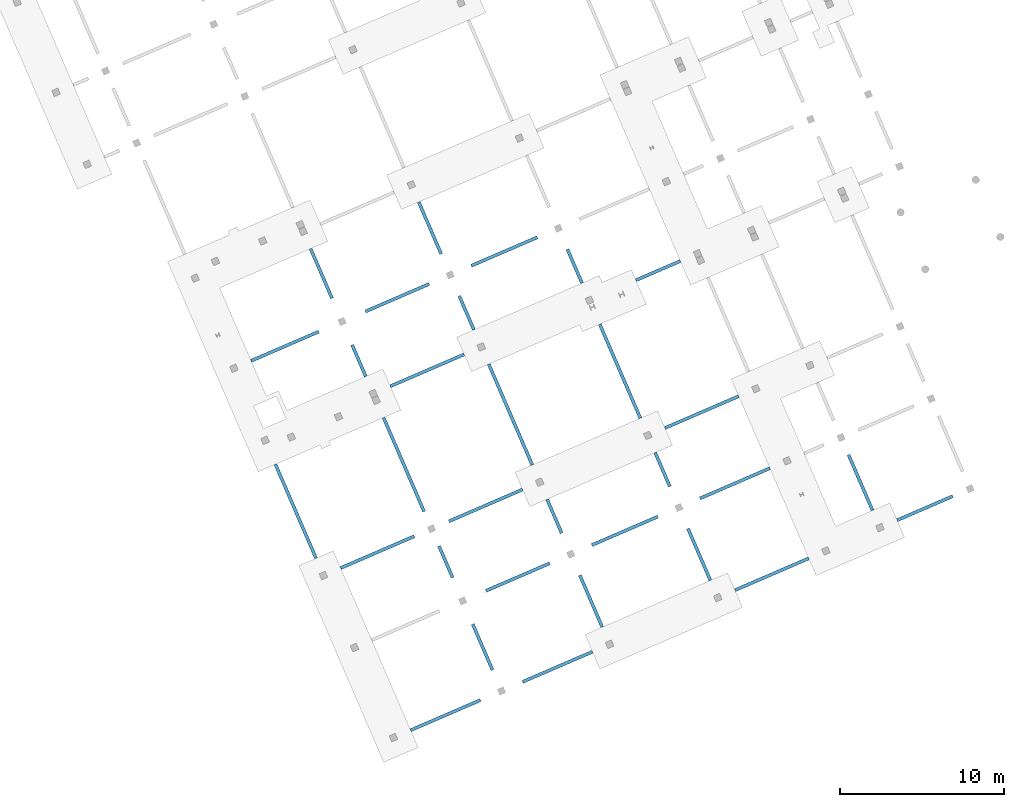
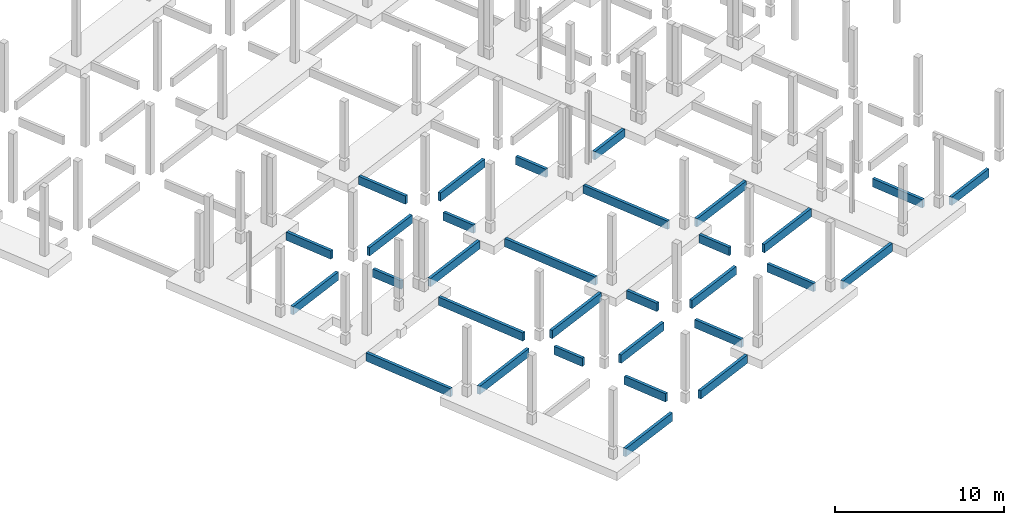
# One storey, part 8 of 11: 31 beams.
"""IFC4 building model written with IfcOpenShell, lengths in metres."""

from ifc_helpers import new_model, entity, si_unit, converted_unit, derived_unit, direction, frame, origin, place, context, subcontext, project, spatial, indexed_curve, outline, extrude, source, transform, mapped, material, type_object, type_shapes, element, save


model = new_model("IFC4")

# Units and contexts
model_context = context("Model", 3, precision=1e-05, world=origin(), true_north=direction((6.12323399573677e-17, 1.0)))
body_context = subcontext(model_context, "Body", "Model", "MODEL_VIEW")
ifc_project = project(units=[si_unit("LENGTHUNIT", "METRE"), si_unit("AREAUNIT", "SQUARE_METRE"), si_unit("VOLUMEUNIT", "CUBIC_METRE"), converted_unit("PLANEANGLEUNIT", "DEGREE", entity("IfcPlaneAngleMeasure", 0.0174532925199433), si_unit("PLANEANGLEUNIT", "RADIAN"), dimensions=[0, 0, 0, 0, 0, 0, 0]), si_unit("MASSUNIT", "GRAM", prefix="KILO"), derived_unit("MOMENTOFINERTIAUNIT", [(si_unit("LENGTHUNIT", "METRE"), 4)]), derived_unit("LINEARFORCEUNIT", [(si_unit("MASSUNIT", "GRAM", prefix="KILO"), 1), (si_unit("TIMEUNIT", "SECOND"), -2)]), derived_unit("WARPINGCONSTANTUNIT", [(si_unit("LENGTHUNIT", "METRE"), 6)]), derived_unit("THERMALTRANSMITTANCEUNIT", [(si_unit("MASSUNIT", "GRAM", prefix="KILO"), 1), (si_unit("THERMODYNAMICTEMPERATUREUNIT", "KELVIN"), -1), (si_unit("TIMEUNIT", "SECOND"), -3)]), derived_unit("USERDEFINED", [(si_unit("MASSUNIT", "GRAM", prefix="KILO"), 1), (si_unit("TIMEUNIT", "SECOND"), -2), (si_unit("THERMODYNAMICTEMPERATUREUNIT", "KELVIN"), -1)]), derived_unit("THERMALRESISTANCEUNIT", [(si_unit("MASSUNIT", "GRAM", prefix="KILO"), -1), (si_unit("TIMEUNIT", "SECOND"), 3), (si_unit("THERMODYNAMICTEMPERATUREUNIT", "KELVIN"), 1)])], contexts=[model_context])

# Site, building, storey
site_placement = place(None, origin())
site = spatial("IfcSite", under=ifc_project, at=site_placement, Name="Default", CompositionType="ELEMENT")
building_placement = place(site_placement, frame((12.6613425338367, -82.5732315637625, 317.15), z_axis=(0.0, 0.0, 1.0), x_axis=(-0.396377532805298, 0.918087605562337, 0.0)))
building = spatial("IfcBuilding", under=site, at=building_placement, Name="CESFAM Coyhaique", CompositionType="ELEMENT")
storey_placement = place(building_placement, frame((0.0, 0.0, -0.950000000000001)))
storey = spatial("IfcBuildingStorey", under=building, at=storey_placement, Name="d_Fundaciones", CompositionType="ELEMENT", Elevation=-0.950000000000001)

# Beams
ifc_material = material(Name="HA")
beam_type_1 = type_object("IfcBeamType", Name="M_Concrete-Rectangular Beam:200 x 600mm", PredefinedType="BEAM", material=ifc_material)
shared_shape_1 = source(origin(), body_context, "Body", "SweptSolid", [
    extrude(outline(indexed_curve([(-0.100000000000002, -0.3), (0.100000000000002, -0.3), (0.100000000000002, 0.3), (-0.100000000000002, 0.3), (-0.100000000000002, -0.3)], self_intersect=False)), frame((4.16885341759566, 16.0528504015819, -1.25), z_axis=(0.0, -1.0, 0.0), x_axis=(-1.0, 0.0, 0.0)), (0.0, 0.0, 1.0), 4.64999999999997),
])
type_shapes(beam_type_1, [shared_shape_1])
beam_1_placement = place(storey_placement, frame((0.0, 0.0, 0.950000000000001)))
element("IfcBeam", 1, at=beam_1_placement, inside=storey, type_object=beam_type_1, Name="M_Concrete-Rectangular Beam:200 x 600mm", ObjectType="M_Concrete-Rectangular Beam:200 x 600mm", PredefinedType="BEAM", context=body_context, shape_type="MappedRepresentation", body=[
    mapped(shared_shape_1, transform((0.0, 0.0, 0.0), scale=1.0)),
])
beam_type_2 = type_object("IfcBeamType", Name="M_Concrete-Rectangular Beam:200 x 600mm", PredefinedType="BEAM", material=ifc_material)
shared_shape_2 = source(origin(), body_context, "Body", "SweptSolid", [
    extrude(outline(indexed_curve([(-0.100000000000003, -0.3), (0.100000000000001, -0.3), (0.0999999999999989, 0.3), (-0.100000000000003, 0.3), (-0.100000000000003, -0.3)], self_intersect=False)), frame((14.9688534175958, 16.0528504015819, -1.25), z_axis=(0.0, -1.0, 0.0), x_axis=(-1.0, 0.0, 0.0)), (0.0, 0.0, 1.0), 4.89999999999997),
])
type_shapes(beam_type_2, [shared_shape_2])
beam_2_placement = place(storey_placement, frame((0.0, 0.0, 0.950000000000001)))
element("IfcBeam", 2, at=beam_2_placement, inside=storey, type_object=beam_type_2, Name="M_Concrete-Rectangular Beam:200 x 600mm", ObjectType="M_Concrete-Rectangular Beam:200 x 600mm", PredefinedType="BEAM", context=body_context, shape_type="MappedRepresentation", body=[
    mapped(shared_shape_2, transform((0.0, 0.0, 0.0), scale=1.0)),
])
beam_type_3 = type_object("IfcBeamType", Name="M_Concrete-Rectangular Beam:200 x 600mm", PredefinedType="BEAM", material=ifc_material)
shared_shape_3 = source(origin(), body_context, "Body", "SweptSolid", [
    extrude(outline(indexed_curve([(-0.3, -0.100000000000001), (0.3, -0.100000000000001), (0.3, 0.100000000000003), (-0.3, 0.100000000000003), (-0.3, -0.100000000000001)], self_intersect=False)), frame((5.56885341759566, 10.0028504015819, -1.25), z_axis=(1.0, 0.0, 0.0), x_axis=(0.0, 0.0, -1.0)), (0.0, 0.0, 1.0), 3.05000000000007),
])
type_shapes(beam_type_3, [shared_shape_3])
beam_3_placement = place(storey_placement, frame((0.0, 0.0, 0.950000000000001)))
element("IfcBeam", 3, at=beam_3_placement, inside=storey, type_object=beam_type_3, Name="M_Concrete-Rectangular Beam:200 x 600mm", ObjectType="M_Concrete-Rectangular Beam:200 x 600mm", PredefinedType="BEAM", context=body_context, shape_type="MappedRepresentation", body=[
    mapped(shared_shape_3, transform((0.0, 0.0, 0.0), scale=1.0)),
])
beam_type_4 = type_object("IfcBeamType", Name="M_Concrete-Rectangular Beam:200 x 600mm", PredefinedType="BEAM", material=ifc_material)
shared_shape_4 = source(origin(), body_context, "Body", "SweptSolid", [
    extrude(outline(indexed_curve([(-0.3, -0.100000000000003), (0.3, -0.100000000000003), (0.3, 0.100000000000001), (-0.3, 0.100000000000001), (-0.3, -0.100000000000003)], self_intersect=False)), frame((11.7188534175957, 10.0028504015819, -1.25), z_axis=(1.0, 0.0, 0.0), x_axis=(0.0, 0.0, -1.0)), (0.0, 0.0, 1.0), 2.10000000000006),
])
type_shapes(beam_type_4, [shared_shape_4])
beam_4_placement = place(storey_placement, frame((0.0, 0.0, 0.950000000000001)))
element("IfcBeam", 4, at=beam_4_placement, inside=storey, type_object=beam_type_4, Name="M_Concrete-Rectangular Beam:200 x 600mm", ObjectType="M_Concrete-Rectangular Beam:200 x 600mm", PredefinedType="BEAM", context=body_context, shape_type="MappedRepresentation", body=[
    mapped(shared_shape_4, transform((0.0, 0.0, 0.0), scale=1.0)),
])
beam_type_5 = type_object("IfcBeamType", Name="M_Concrete-Rectangular Beam:200 x 600mm", PredefinedType="BEAM", material=ifc_material)
shared_shape_5 = source(origin(), body_context, "Body", "SweptSolid", [
    extrude(outline(indexed_curve([(-0.100000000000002, -0.3), (0.100000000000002, -0.3), (0.100000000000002, 0.3), (-0.100000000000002, 0.3), (-0.100000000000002, -0.3)], self_intersect=False)), frame((4.16885341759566, 8.6028504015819, -1.25), z_axis=(0.0, -1.0, 0.0), x_axis=(-1.0, 0.0, 0.0)), (0.0, 0.0, 1.0), 4.65),
])
type_shapes(beam_type_5, [shared_shape_5])
beam_5_placement = place(storey_placement, frame((0.0, 0.0, 0.950000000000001)))
element("IfcBeam", 5, at=beam_5_placement, inside=storey, type_object=beam_type_5, Name="M_Concrete-Rectangular Beam:200 x 600mm", ObjectType="M_Concrete-Rectangular Beam:200 x 600mm", PredefinedType="BEAM", context=body_context, shape_type="MappedRepresentation", body=[
    mapped(shared_shape_5, transform((0.0, 0.0, 0.0), scale=1.0)),
])
beam_type_6 = type_object("IfcBeamType", Name="M_Concrete-Rectangular Beam:200 x 600mm", PredefinedType="BEAM", material=ifc_material)
shared_shape_6 = source(origin(), body_context, "Body", "SweptSolid", [
    extrude(outline(indexed_curve([(-0.100000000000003, -0.3), (0.100000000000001, -0.3), (0.0999999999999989, 0.3), (-0.100000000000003, 0.3), (-0.100000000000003, -0.3)], self_intersect=False)), frame((10.1688534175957, 8.45285040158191, -1.25), z_axis=(0.0, -1.0, 0.0), x_axis=(-1.0, 0.0, 0.0)), (0.0, 0.0, 1.0), 4.24999999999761),
])
type_shapes(beam_type_6, [shared_shape_6])
beam_6_placement = place(storey_placement, frame((0.0, 0.0, 0.950000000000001)))
element("IfcBeam", 6, at=beam_6_placement, inside=storey, type_object=beam_type_6, Name="M_Concrete-Rectangular Beam:200 x 600mm", ObjectType="M_Concrete-Rectangular Beam:200 x 600mm", PredefinedType="BEAM", context=body_context, shape_type="MappedRepresentation", body=[
    mapped(shared_shape_6, transform((0.0, 0.0, 0.0), scale=1.0)),
])
beam_type_7 = type_object("IfcBeamType", Name="M_Concrete-Rectangular Beam:200 x 600mm", PredefinedType="BEAM", material=ifc_material)
shared_shape_7 = source(origin(), body_context, "Body", "SweptSolid", [
    extrude(outline(indexed_curve([(-0.100000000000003, -0.3), (0.100000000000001, -0.3), (0.0999999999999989, 0.3), (-0.100000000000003, 0.3), (-0.100000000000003, -0.3)], self_intersect=False)), frame((14.9688534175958, 8.8528504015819, -1.25), z_axis=(0.0, -1.0, 0.0), x_axis=(-1.0, 0.0, 0.0)), (0.0, 0.0, 1.0), 4.90000000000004),
])
type_shapes(beam_type_7, [shared_shape_7])
beam_7_placement = place(storey_placement, frame((0.0, 0.0, 0.950000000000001)))
element("IfcBeam", 7, at=beam_7_placement, inside=storey, type_object=beam_type_7, Name="M_Concrete-Rectangular Beam:200 x 600mm", ObjectType="M_Concrete-Rectangular Beam:200 x 600mm", PredefinedType="BEAM", context=body_context, shape_type="MappedRepresentation", body=[
    mapped(shared_shape_7, transform((0.0, 0.0, 0.0), scale=1.0)),
])
beam_type_8 = type_object("IfcBeamType", Name="M_Concrete-Rectangular Beam:200 x 600mm", PredefinedType="BEAM", material=ifc_material)
shared_shape_8 = source(origin(), body_context, "Body", "SweptSolid", [
    extrude(outline(indexed_curve([(-0.3, -0.100000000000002), (0.3, -0.100000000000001), (0.3, 0.100000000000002), (-0.3, 0.100000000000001), (-0.3, -0.100000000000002)], self_intersect=False)), frame((5.3188534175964, 2.80285040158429, -1.25), z_axis=(1.0, 0.0, 0.0), x_axis=(0.0, 0.0, -1.0)), (0.0, 0.0, 1.0), 3.44999999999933),
])
type_shapes(beam_type_8, [shared_shape_8])
beam_8_placement = place(storey_placement, frame((0.0, 0.0, 0.950000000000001)))
element("IfcBeam", 8, at=beam_8_placement, inside=storey, type_object=beam_type_8, Name="M_Concrete-Rectangular Beam:200 x 600mm", ObjectType="M_Concrete-Rectangular Beam:200 x 600mm", PredefinedType="BEAM", context=body_context, shape_type="MappedRepresentation", body=[
    mapped(shared_shape_8, transform((0.0, 0.0, 0.0), scale=1.0)),
])
beam_type_9 = type_object("IfcBeamType", Name="M_Concrete-Rectangular Beam:200 x 600mm", PredefinedType="BEAM", material=ifc_material)
shared_shape_9 = source(origin(), body_context, "Body", "SweptSolid", [
    extrude(outline(indexed_curve([(-0.3, -0.100000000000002), (0.3, -0.100000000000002), (0.3, 0.100000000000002), (-0.3, 0.100000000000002), (-0.3, -0.100000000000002)], self_intersect=False)), frame((11.5688534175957, 2.80285040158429, -1.25), z_axis=(1.0, 0.0, 0.0), x_axis=(0.0, 0.0, -1.0)), (0.0, 0.0, 1.0), 2.2500000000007),
])
type_shapes(beam_type_9, [shared_shape_9])
beam_9_placement = place(storey_placement, frame((0.0, 0.0, 0.950000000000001)))
element("IfcBeam", 9, at=beam_9_placement, inside=storey, type_object=beam_type_9, Name="M_Concrete-Rectangular Beam:200 x 600mm", ObjectType="M_Concrete-Rectangular Beam:200 x 600mm", PredefinedType="BEAM", context=body_context, shape_type="MappedRepresentation", body=[
    mapped(shared_shape_9, transform((0.0, 0.0, 0.0), scale=1.0)),
])
beam_type_10 = type_object("IfcBeamType", Name="M_Concrete-Rectangular Beam:200 x 600mm", PredefinedType="BEAM", material=ifc_material)
shared_shape_10 = source(origin(), body_context, "Body", "SweptSolid", [
    extrude(outline(indexed_curve([(-0.100000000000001, -0.3), (0.100000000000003, -0.3), (0.100000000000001, 0.3), (-0.100000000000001, 0.3), (-0.100000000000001, -0.3)], self_intersect=False)), frame((10.1688534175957, 1.4028504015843, -1.25), z_axis=(0.0, -1.0, 0.0), x_axis=(-1.0, 0.0, 0.0)), (0.0, 0.0, 1.0), 4.40000000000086),
])
type_shapes(beam_type_10, [shared_shape_10])
beam_10_placement = place(storey_placement, frame((0.0, 0.0, 0.950000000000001)))
element("IfcBeam", 10, at=beam_10_placement, inside=storey, type_object=beam_type_10, Name="M_Concrete-Rectangular Beam:200 x 600mm", ObjectType="M_Concrete-Rectangular Beam:200 x 600mm", PredefinedType="BEAM", context=body_context, shape_type="MappedRepresentation", body=[
    mapped(shared_shape_10, transform((0.0, 0.0, 0.0), scale=1.0)),
])
beam_type_11 = type_object("IfcBeamType", Name="M_Concrete-Rectangular Beam:200 x 600mm", PredefinedType="BEAM", material=ifc_material)
shared_shape_11 = source(origin(), body_context, "Body", "SweptSolid", [
    extrude(outline(indexed_curve([(-0.3, -0.100000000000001), (0.3, -0.100000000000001), (0.3, 0.100000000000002), (-0.3, 0.100000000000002), (-0.3, -0.100000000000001)], self_intersect=False)), frame((5.31885341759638, -4.39714959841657, -1.25), z_axis=(1.0, 0.0, 0.0), x_axis=(0.0, 0.0, -1.0)), (0.0, 0.0, 1.0), 3.44999999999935),
])
type_shapes(beam_type_11, [shared_shape_11])
beam_11_placement = place(storey_placement, frame((0.0, 0.0, 0.950000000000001)))
element("IfcBeam", 11, at=beam_11_placement, inside=storey, type_object=beam_type_11, Name="M_Concrete-Rectangular Beam:200 x 600mm", ObjectType="M_Concrete-Rectangular Beam:200 x 600mm", PredefinedType="BEAM", context=body_context, shape_type="MappedRepresentation", body=[
    mapped(shared_shape_11, transform((0.0, 0.0, 0.0), scale=1.0)),
])
beam_type_12 = type_object("IfcBeamType", Name="M_Concrete-Rectangular Beam:200 x 600mm", PredefinedType="BEAM", material=ifc_material)
shared_shape_12 = source(origin(), body_context, "Body", "SweptSolid", [
    extrude(outline(indexed_curve([(-0.3, -0.100000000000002), (0.3, -0.100000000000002), (0.3, 0.100000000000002), (-0.3, 0.100000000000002), (-0.3, -0.100000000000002)], self_intersect=False)), frame((11.5688534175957, -4.39714959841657, -1.25), z_axis=(1.0, 0.0, 0.0), x_axis=(0.0, 0.0, -1.0)), (0.0, 0.0, 1.0), 2.25000000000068),
])
type_shapes(beam_type_12, [shared_shape_12])
beam_12_placement = place(storey_placement, frame((0.0, 0.0, 0.950000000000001)))
element("IfcBeam", 12, at=beam_12_placement, inside=storey, type_object=beam_type_12, Name="M_Concrete-Rectangular Beam:200 x 600mm", ObjectType="M_Concrete-Rectangular Beam:200 x 600mm", PredefinedType="BEAM", context=body_context, shape_type="MappedRepresentation", body=[
    mapped(shared_shape_12, transform((0.0, 0.0, 0.0), scale=1.0)),
])
beam_type_13 = type_object("IfcBeamType", Name="M_Concrete-Rectangular Beam:200 x 600mm", PredefinedType="BEAM", material=ifc_material)
shared_shape_13 = source(origin(), body_context, "Body", "SweptSolid", [
    extrude(outline(indexed_curve([(-0.100000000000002, -0.3), (0.100000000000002, -0.3), (0.100000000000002, 0.3), (-0.100000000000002, 0.3), (-0.100000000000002, -0.3)], self_intersect=False)), frame((4.16885341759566, -5.54714959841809, -1.25), z_axis=(0.0, -1.0, 0.0), x_axis=(-1.0, 0.0, 0.0)), (0.0, 0.0, 1.0), 4.90000000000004),
])
type_shapes(beam_type_13, [shared_shape_13])
beam_13_placement = place(storey_placement, frame((0.0, 0.0, 0.950000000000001)))
element("IfcBeam", 13, at=beam_13_placement, inside=storey, type_object=beam_type_13, Name="M_Concrete-Rectangular Beam:200 x 600mm", ObjectType="M_Concrete-Rectangular Beam:200 x 600mm", PredefinedType="BEAM", context=body_context, shape_type="MappedRepresentation", body=[
    mapped(shared_shape_13, transform((0.0, 0.0, 0.0), scale=1.0)),
])
beam_type_14 = type_object("IfcBeamType", Name="M_Concrete-Rectangular Beam:200 x 600mm", PredefinedType="BEAM", material=ifc_material)
shared_shape_14 = source(origin(), body_context, "Body", "SweptSolid", [
    extrude(outline(indexed_curve([(-0.100000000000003, -0.3), (0.100000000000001, -0.3), (0.100000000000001, 0.3), (-0.100000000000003, 0.3), (-0.100000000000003, -0.3)], self_intersect=False)), frame((10.1688534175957, -5.79714959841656, -1.25), z_axis=(0.0, -1.0, 0.0), x_axis=(-1.0, 0.0, 0.0)), (0.0, 0.0, 1.0), 4.65000000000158),
])
type_shapes(beam_type_14, [shared_shape_14])
beam_14_placement = place(storey_placement, frame((0.0, 0.0, 0.950000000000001)))
element("IfcBeam", 14, at=beam_14_placement, inside=storey, type_object=beam_type_14, Name="M_Concrete-Rectangular Beam:200 x 600mm", ObjectType="M_Concrete-Rectangular Beam:200 x 600mm", PredefinedType="BEAM", context=body_context, shape_type="MappedRepresentation", body=[
    mapped(shared_shape_14, transform((0.0, 0.0, 0.0), scale=1.0)),
])
beam_type_15 = type_object("IfcBeamType", Name="M_Concrete-Rectangular Beam:200 x 600mm", PredefinedType="BEAM", material=ifc_material)
shared_shape_15 = source(origin(), body_context, "Body", "SweptSolid", [
    extrude(outline(indexed_curve([(-0.100000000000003, -0.3), (0.100000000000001, -0.3), (0.0999999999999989, 0.3), (-0.100000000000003, 0.3), (-0.100000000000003, -0.3)], self_intersect=False)), frame((14.9688534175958, -5.54714959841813, -1.25), z_axis=(0.0, -1.0, 0.0), x_axis=(-1.0, 0.0, 0.0)), (0.0, 0.0, 1.0), 4.90000000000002),
])
type_shapes(beam_type_15, [shared_shape_15])
beam_15_placement = place(storey_placement, frame((0.0, 0.0, 0.950000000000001)))
element("IfcBeam", 15, at=beam_15_placement, inside=storey, type_object=beam_type_15, Name="M_Concrete-Rectangular Beam:200 x 600mm", ObjectType="M_Concrete-Rectangular Beam:200 x 600mm", PredefinedType="BEAM", context=body_context, shape_type="MappedRepresentation", body=[
    mapped(shared_shape_15, transform((0.0, 0.0, 0.0), scale=1.0)),
])
beam_type_16 = type_object("IfcBeamType", Name="M_Concrete-Rectangular Beam:200 x 600mm", PredefinedType="BEAM", material=ifc_material)
shared_shape_16 = source(origin(), body_context, "Body", "SweptSolid", [
    extrude(outline(indexed_curve([(-0.3, -0.100000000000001), (0.3, -0.100000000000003), (0.3, 0.100000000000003), (-0.3, 0.100000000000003), (-0.3, -0.100000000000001)], self_intersect=False)), frame((5.31885341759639, -15.1971495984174, -1.25), z_axis=(1.0, 0.0, 0.0), x_axis=(0.0, 0.0, -1.0)), (0.0, 0.0, 1.0), 3.69999999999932),
])
type_shapes(beam_type_16, [shared_shape_16])
beam_16_placement = place(storey_placement, frame((0.0, 0.0, 0.950000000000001)))
element("IfcBeam", 16, at=beam_16_placement, inside=storey, type_object=beam_type_16, Name="M_Concrete-Rectangular Beam:200 x 600mm", ObjectType="M_Concrete-Rectangular Beam:200 x 600mm", PredefinedType="BEAM", context=body_context, shape_type="MappedRepresentation", body=[
    mapped(shared_shape_16, transform((0.0, 0.0, 0.0), scale=1.0)),
])
beam_type_17 = type_object("IfcBeamType", Name="M_Concrete-Rectangular Beam:200 x 600mm", PredefinedType="BEAM", material=ifc_material)
shared_shape_17 = source(origin(), body_context, "Body", "SweptSolid", [
    extrude(outline(indexed_curve([(-0.100000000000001, -0.3), (0.100000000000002, -0.3), (0.100000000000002, 0.3), (-0.100000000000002, 0.3), (-0.100000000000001, -0.3)], self_intersect=False)), frame((4.16885341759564, -16.3471495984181, -1.25), z_axis=(0.0, -1.0, 0.0), x_axis=(-1.0, 0.0, 0.0)), (0.0, 0.0, 1.0), 3.69999999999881),
])
type_shapes(beam_type_17, [shared_shape_17])
beam_17_placement = place(storey_placement, frame((0.0, 0.0, 0.950000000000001)))
element("IfcBeam", 17, at=beam_17_placement, inside=storey, type_object=beam_type_17, Name="M_Concrete-Rectangular Beam:200 x 600mm", ObjectType="M_Concrete-Rectangular Beam:200 x 600mm", PredefinedType="BEAM", context=body_context, shape_type="MappedRepresentation", body=[
    mapped(shared_shape_17, transform((0.0, 0.0, 0.0), scale=1.0)),
])
beam_type_18 = type_object("IfcBeamType", Name="M_Concrete-Rectangular Beam:200 x 600mm", PredefinedType="BEAM", material=ifc_material)
shared_shape_18 = source(origin(), body_context, "Body", "SweptSolid", [
    extrude(outline(indexed_curve([(-0.0999999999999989, -0.3), (0.0999999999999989, -0.3), (0.100000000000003, 0.3), (-0.100000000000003, 0.3), (-0.0999999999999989, -0.3)], self_intersect=False)), frame((28.7688534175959, 16.0528502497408, -1.25), z_axis=(0.0, -1.0, 0.0), x_axis=(-1.0, 0.0, 0.0)), (0.0, 0.0, 1.0), 4.49999984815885),
])
type_shapes(beam_type_18, [shared_shape_18])
beam_18_placement = place(storey_placement, frame((0.0, 0.0, 0.950000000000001)))
element("IfcBeam", 18, at=beam_18_placement, inside=storey, type_object=beam_type_18, Name="M_Concrete-Rectangular Beam:200 x 600mm", ObjectType="M_Concrete-Rectangular Beam:200 x 600mm", PredefinedType="BEAM", context=body_context, shape_type="MappedRepresentation", body=[
    mapped(shared_shape_18, transform((0.0, 0.0, 0.0), scale=1.0)),
])
beam_type_19 = type_object("IfcBeamType", Name="M_Concrete-Rectangular Beam:200 x 600mm", PredefinedType="BEAM", material=ifc_material)
shared_shape_19 = source(origin(), body_context, "Body", "SweptSolid", [
    extrude(outline(indexed_curve([(-0.3, -0.100000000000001), (0.3, -0.100000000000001), (0.3, 0.100000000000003), (-0.3, 0.100000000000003), (-0.3, -0.100000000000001)], self_intersect=False)), frame((25.1188534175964, 10.0028504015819, -1.25), z_axis=(1.0, 0.0, 0.0), x_axis=(0.0, 0.0, -1.0)), (0.0, 0.0, 1.0), 2.09999999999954),
])
type_shapes(beam_type_19, [shared_shape_19])
beam_19_placement = place(storey_placement, frame((0.0, 0.0, 0.950000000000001)))
element("IfcBeam", 19, at=beam_19_placement, inside=storey, type_object=beam_type_19, Name="M_Concrete-Rectangular Beam:200 x 600mm", ObjectType="M_Concrete-Rectangular Beam:200 x 600mm", PredefinedType="BEAM", context=body_context, shape_type="MappedRepresentation", body=[
    mapped(shared_shape_19, transform((0.0, 0.0, 0.0), scale=1.0)),
])
beam_type_20 = type_object("IfcBeamType", Name="M_Concrete-Rectangular Beam:200 x 600mm", PredefinedType="BEAM", material=ifc_material)
shared_shape_20 = source(origin(), body_context, "Body", "SweptSolid", [
    extrude(outline(indexed_curve([(-0.3, -0.100000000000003), (0.3, -0.100000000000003), (0.3, 0.100000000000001), (-0.3, 0.100000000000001), (-0.3, -0.100000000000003)], self_intersect=False)), frame((30.3188534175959, 10.0028504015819, -1.25), z_axis=(1.0, 0.0, 0.0), x_axis=(0.0, 0.0, -1.0)), (0.0, 0.0, 1.0), 3.30000000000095),
])
type_shapes(beam_type_20, [shared_shape_20])
beam_20_placement = place(storey_placement, frame((0.0, 0.0, 0.950000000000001)))
element("IfcBeam", 20, at=beam_20_placement, inside=storey, type_object=beam_type_20, Name="M_Concrete-Rectangular Beam:200 x 600mm", ObjectType="M_Concrete-Rectangular Beam:200 x 600mm", PredefinedType="BEAM", context=body_context, shape_type="MappedRepresentation", body=[
    mapped(shared_shape_20, transform((0.0, 0.0, 0.0), scale=1.0)),
])
beam_type_21 = type_object("IfcBeamType", Name="M_Concrete-Rectangular Beam:200 x 600mm", PredefinedType="BEAM", material=ifc_material)
shared_shape_21 = source(origin(), body_context, "Body", "SweptSolid", [
    extrude(outline(indexed_curve([(-0.100000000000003, -0.3), (0.100000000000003, -0.3), (0.100000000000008, 0.3), (-0.0999999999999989, 0.3), (-0.100000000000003, -0.3)], self_intersect=False)), frame((23.9688534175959, 3.95285040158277, -1.25), z_axis=(0.0, 1.0, 0.0), x_axis=(-1.0, 0.0, 0.0)), (0.0, 0.0, 1.0), 4.89999999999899),
])
type_shapes(beam_type_21, [shared_shape_21])
beam_21_placement = place(storey_placement, frame((0.0, 0.0, 0.950000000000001)))
element("IfcBeam", 21, at=beam_21_placement, inside=storey, type_object=beam_type_21, Name="M_Concrete-Rectangular Beam:200 x 600mm", ObjectType="M_Concrete-Rectangular Beam:200 x 600mm", PredefinedType="BEAM", context=body_context, shape_type="MappedRepresentation", body=[
    mapped(shared_shape_21, transform((0.0, 0.0, 0.0), scale=1.0)),
])
beam_type_22 = type_object("IfcBeamType", Name="M_Concrete-Rectangular Beam:200 x 600mm", PredefinedType="BEAM", material=ifc_material)
shared_shape_22 = source(origin(), body_context, "Body", "SweptSolid", [
    extrude(outline(indexed_curve([(-0.0999999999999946, -0.3), (0.100000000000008, -0.3), (0.100000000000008, 0.3), (-0.0999999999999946, 0.3), (-0.0999999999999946, -0.3)], self_intersect=False)), frame((28.7688534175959, 4.2028504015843, -1.25), z_axis=(0.0, 1.0, 0.0), x_axis=(-1.0, 0.0, 0.0)), (0.0, 0.0, 1.0), 4.24999999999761),
])
type_shapes(beam_type_22, [shared_shape_22])
beam_22_placement = place(storey_placement, frame((0.0, 0.0, 0.950000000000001)))
element("IfcBeam", 22, at=beam_22_placement, inside=storey, type_object=beam_type_22, Name="M_Concrete-Rectangular Beam:200 x 600mm", ObjectType="M_Concrete-Rectangular Beam:200 x 600mm", PredefinedType="BEAM", context=body_context, shape_type="MappedRepresentation", body=[
    mapped(shared_shape_22, transform((0.0, 0.0, 0.0), scale=1.0)),
])
beam_type_23 = type_object("IfcBeamType", Name="M_Concrete-Rectangular Beam:200 x 600mm", PredefinedType="BEAM", material=ifc_material)
shared_shape_23 = source(origin(), body_context, "Body", "SweptSolid", [
    extrude(outline(indexed_curve([(-0.3, -0.100000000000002), (0.3, -0.100000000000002), (0.3, 0.100000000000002), (-0.3, 0.100000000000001), (-0.3, -0.100000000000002)], self_intersect=False)), frame((25.1188534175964, 2.80285040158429, -1.25), z_axis=(1.0, 0.0, 0.0), x_axis=(0.0, 0.0, -1.0)), (0.0, 0.0, 1.0), 2.24999999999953),
])
type_shapes(beam_type_23, [shared_shape_23])
beam_23_placement = place(storey_placement, frame((0.0, 0.0, 0.950000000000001)))
element("IfcBeam", 23, at=beam_23_placement, inside=storey, type_object=beam_type_23, Name="M_Concrete-Rectangular Beam:200 x 600mm", ObjectType="M_Concrete-Rectangular Beam:200 x 600mm", PredefinedType="BEAM", context=body_context, shape_type="MappedRepresentation", body=[
    mapped(shared_shape_23, transform((0.0, 0.0, 0.0), scale=1.0)),
])
beam_type_24 = type_object("IfcBeamType", Name="M_Concrete-Rectangular Beam:200 x 600mm", PredefinedType="BEAM", material=ifc_material)
shared_shape_24 = source(origin(), body_context, "Body", "SweptSolid", [
    extrude(outline(indexed_curve([(-0.3, -0.100000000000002), (0.3, -0.100000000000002), (0.3, 0.100000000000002), (-0.3, 0.100000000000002), (-0.3, -0.100000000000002)], self_intersect=False)), frame((30.1688534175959, 2.80285040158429, -1.25), z_axis=(1.0, 0.0, 0.0), x_axis=(0.0, 0.0, -1.0)), (0.0, 0.0, 1.0), 3.4500000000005),
])
type_shapes(beam_type_24, [shared_shape_24])
beam_24_placement = place(storey_placement, frame((0.0, 0.0, 0.950000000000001)))
element("IfcBeam", 24, at=beam_24_placement, inside=storey, type_object=beam_type_24, Name="M_Concrete-Rectangular Beam:200 x 600mm", ObjectType="M_Concrete-Rectangular Beam:200 x 600mm", PredefinedType="BEAM", context=body_context, shape_type="MappedRepresentation", body=[
    mapped(shared_shape_24, transform((0.0, 0.0, 0.0), scale=1.0)),
])
beam_type_25 = type_object("IfcBeamType", Name="M_Concrete-Rectangular Beam:200 x 600mm", PredefinedType="BEAM", material=ifc_material)
shared_shape_25 = source(origin(), body_context, "Body", "SweptSolid", [
    extrude(outline(indexed_curve([(-0.0999999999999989, -0.3), (0.100000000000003, -0.3), (0.100000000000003, 0.3), (-0.0999999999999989, 0.3), (-0.0999999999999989, -0.3)], self_intersect=False)), frame((28.7688534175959, -2.99714959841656, -1.25), z_axis=(0.0, 1.0, 0.0), x_axis=(-1.0, 0.0, 0.0)), (0.0, 0.0, 1.0), 4.40000000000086),
])
type_shapes(beam_type_25, [shared_shape_25])
beam_25_placement = place(storey_placement, frame((0.0, 0.0, 0.950000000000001)))
element("IfcBeam", 25, at=beam_25_placement, inside=storey, type_object=beam_type_25, Name="M_Concrete-Rectangular Beam:200 x 600mm", ObjectType="M_Concrete-Rectangular Beam:200 x 600mm", PredefinedType="BEAM", context=body_context, shape_type="MappedRepresentation", body=[
    mapped(shared_shape_25, transform((0.0, 0.0, 0.0), scale=1.0)),
])
beam_type_26 = type_object("IfcBeamType", Name="M_Concrete-Rectangular Beam:200 x 600mm", PredefinedType="BEAM", material=ifc_material)
shared_shape_26 = source(origin(), body_context, "Body", "SweptSolid", [
    extrude(outline(indexed_curve([(-0.3, -0.100000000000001), (0.3, -0.100000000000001), (0.3, 0.100000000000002), (-0.3, 0.100000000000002), (-0.3, -0.100000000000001)], self_intersect=False)), frame((25.1188534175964, -4.39714959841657, -1.25), z_axis=(1.0, 0.0, 0.0), x_axis=(0.0, 0.0, -1.0)), (0.0, 0.0, 1.0), 2.24999999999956),
])
type_shapes(beam_type_26, [shared_shape_26])
beam_26_placement = place(storey_placement, frame((0.0, 0.0, 0.950000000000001)))
element("IfcBeam", 26, at=beam_26_placement, inside=storey, type_object=beam_type_26, Name="M_Concrete-Rectangular Beam:200 x 600mm", ObjectType="M_Concrete-Rectangular Beam:200 x 600mm", PredefinedType="BEAM", context=body_context, shape_type="MappedRepresentation", body=[
    mapped(shared_shape_26, transform((0.0, 0.0, 0.0), scale=1.0)),
])
beam_type_27 = type_object("IfcBeamType", Name="M_Concrete-Rectangular Beam:200 x 600mm", PredefinedType="BEAM", material=ifc_material)
shared_shape_27 = source(origin(), body_context, "Body", "SweptSolid", [
    extrude(outline(indexed_curve([(-0.100000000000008, -0.3), (0.0999999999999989, -0.3), (0.0999999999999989, 0.3), (-0.100000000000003, 0.3), (-0.100000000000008, -0.3)], self_intersect=False)), frame((23.9688534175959, -10.4471495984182, -1.25), z_axis=(0.0, 1.0, 0.0), x_axis=(-1.0, 0.0, 0.0)), (0.0, 0.0, 1.0), 2.95000000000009),
])
type_shapes(beam_type_27, [shared_shape_27])
beam_27_placement = place(storey_placement, frame((0.0, 0.0, 0.950000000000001)))
element("IfcBeam", 27, at=beam_27_placement, inside=storey, type_object=beam_type_27, Name="M_Concrete-Rectangular Beam:200 x 600mm", ObjectType="M_Concrete-Rectangular Beam:200 x 600mm", PredefinedType="BEAM", context=body_context, shape_type="MappedRepresentation", body=[
    mapped(shared_shape_27, transform((0.0, 0.0, 0.0), scale=1.0)),
])
beam_type_28 = type_object("IfcBeamType", Name="M_Concrete-Rectangular Beam:200 x 600mm", PredefinedType="BEAM", material=ifc_material)
shared_shape_28 = source(origin(), body_context, "Body", "SweptSolid", [
    extrude(outline(indexed_curve([(-0.3, -0.100000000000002), (0.3, -0.100000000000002), (0.3, 0.100000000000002), (-0.3, 0.100000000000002), (-0.3, -0.100000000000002)], self_intersect=False)), frame((16.1188534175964, -4.39714959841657, -1.25), z_axis=(1.0, 0.0, 0.0), x_axis=(0.0, 0.0, -1.0)), (0.0, 0.0, 1.0), 6.25000000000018),
])
type_shapes(beam_type_28, [shared_shape_28])
beam_28_placement = place(storey_placement, frame((0.0, 0.0, 0.950000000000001)))
element("IfcBeam", 28, at=beam_28_placement, inside=storey, type_object=beam_type_28, Name="M_Concrete-Rectangular Beam:200 x 600mm", ObjectType="M_Concrete-Rectangular Beam:200 x 600mm", PredefinedType="BEAM", context=body_context, shape_type="MappedRepresentation", body=[
    mapped(shared_shape_28, transform((0.0, 0.0, 0.0), scale=1.0)),
])
beam_type_29 = type_object("IfcBeamType", Name="M_Concrete-Rectangular Beam:200 x 600mm", PredefinedType="BEAM", material=ifc_material)
shared_shape_29 = source(origin(), body_context, "Body", "SweptSolid", [
    extrude(outline(indexed_curve([(-0.3, -0.100000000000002), (0.3, -0.100000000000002), (0.3, 0.100000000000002), (-0.3, 0.100000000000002), (-0.3, -0.100000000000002)], self_intersect=False)), frame((16.1188534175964, 2.80285040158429, -1.25), z_axis=(1.0, 0.0, 0.0), x_axis=(0.0, 0.0, -1.0)), (0.0, 0.0, 1.0), 6.70000000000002),
])
type_shapes(beam_type_29, [shared_shape_29])
beam_29_placement = place(storey_placement, frame((0.0, 0.0, 0.950000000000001)))
element("IfcBeam", 29, at=beam_29_placement, inside=storey, type_object=beam_type_29, Name="M_Concrete-Rectangular Beam:200 x 600mm", ObjectType="M_Concrete-Rectangular Beam:200 x 600mm", PredefinedType="BEAM", context=body_context, shape_type="MappedRepresentation", body=[
    mapped(shared_shape_29, transform((0.0, 0.0, 0.0), scale=1.0)),
])
beam_type_30 = type_object("IfcBeamType", Name="M_Concrete-Rectangular Beam:200 x 600mm", PredefinedType="BEAM", material=ifc_material)
shared_shape_30 = source(origin(), body_context, "Body", "SweptSolid", [
    extrude(outline(indexed_curve([(-0.3, -0.100000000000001), (0.3, -0.100000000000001), (0.3, 0.100000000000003), (-0.3, 0.100000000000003), (-0.3, -0.100000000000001)], self_intersect=False)), frame((16.1188534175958, 10.0028504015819, -1.25), z_axis=(1.0, 0.0, 0.0), x_axis=(0.0, 0.0, -1.0)), (0.0, 0.0, 1.0), 6.24992409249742),
])
type_shapes(beam_type_30, [shared_shape_30])
beam_30_placement = place(storey_placement, frame((0.0, 0.0, 0.950000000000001)))
element("IfcBeam", 30, at=beam_30_placement, inside=storey, type_object=beam_type_30, Name="M_Concrete-Rectangular Beam:200 x 600mm", ObjectType="M_Concrete-Rectangular Beam:200 x 600mm", PredefinedType="BEAM", context=body_context, shape_type="MappedRepresentation", body=[
    mapped(shared_shape_30, transform((0.0, 0.0, 0.0), scale=1.0)),
])
beam_type_31 = type_object("IfcBeamType", Name="M_Concrete-Rectangular Beam:200 x 600mm", PredefinedType="BEAM", material=ifc_material)
shared_shape_31 = source(origin(), body_context, "Body", "SweptSolid", [
    extrude(outline(indexed_curve([(-0.3, -0.100000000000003), (0.3, -0.100000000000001), (0.3, 0.100000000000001), (-0.3, 0.100000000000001), (-0.3, -0.100000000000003)], self_intersect=False)), frame((16.1188534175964, 17.2028504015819, -1.25), z_axis=(1.0, 0.0, 0.0), x_axis=(0.0, 0.0, -1.0)), (0.0, 0.0, 1.0), 6.24992409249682),
])
type_shapes(beam_type_31, [shared_shape_31])
beam_31_placement = place(storey_placement, frame((0.0, 0.0, 0.950000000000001)))
element("IfcBeam", 31, at=beam_31_placement, inside=storey, type_object=beam_type_31, Name="M_Concrete-Rectangular Beam:200 x 600mm", ObjectType="M_Concrete-Rectangular Beam:200 x 600mm", PredefinedType="BEAM", context=body_context, shape_type="MappedRepresentation", body=[
    mapped(shared_shape_31, transform((0.0, 0.0, 0.0), scale=1.0)),
])

save(model, "model.ifc")
